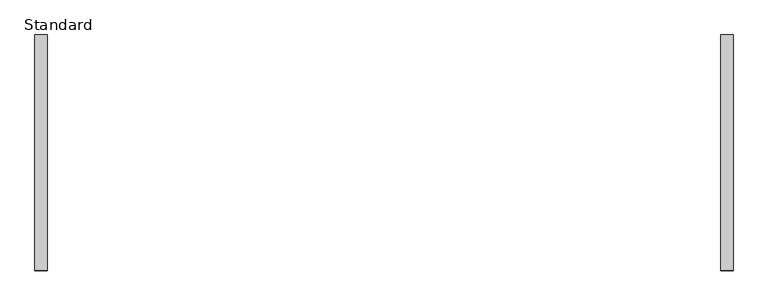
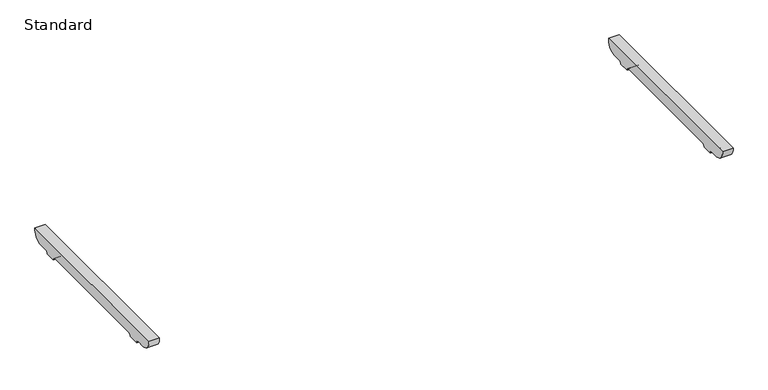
"""IFC4 building model written with IfcOpenShell, lengths in millimetres: furniture geometry, BDG_BossDesign_Tbls_AgentTables4Legs_Nested : Standard."""

from ifc_helpers import new_model, si_unit, point, frame, frame_2d, origin, place, context, project, spatial, polyline, circle_curve, trimmed, segment, composite_curve, outline, extrude, source, transform, mapped, element, save


def standard_5de00fbe(model_context):
    return source(origin(), model_context, "Body", "SweptSolid", [
        extrude(outline(composite_curve([segment(polyline([(380.5450184, 672.0), (342.7000122, 672.0)]), True, "CONTINUOUS"), segment(trimmed(circle_curve(frame_2d((342.7000122, 660.0)), 12.0), [point((342.7000122, 672.0))], [point((330.7000122, 660.0))], True, "CARTESIAN"), True, "CONTINUOUS"), segment(polyline([(330.7000122, 660.0), (285.7000122, 660.0)]), True, "CONTINUOUS"), segment(trimmed(circle_curve(frame_2d((273.7000122, 660.0)), 12.0), [point((285.7000122, 660.0))], [point((273.7000122, 672.0))], True, "CARTESIAN"), True, "CONTINUOUS"), segment(polyline([(273.7000122, 672.0), (-273.7000122, 672.0)]), True, "CONTINUOUS"), segment(trimmed(circle_curve(frame_2d((-273.7000122, 660.0)), 12.0), [point((-273.7000122, 672.0))], [point((-285.7000122, 660.0))], True, "CARTESIAN"), True, "CONTINUOUS"), segment(polyline([(-285.7000122, 660.0), (-330.7000122, 660.0)]), True, "CONTINUOUS"), segment(trimmed(circle_curve(frame_2d((-342.7000122, 660.0)), 12.0), [point((-330.7000122, 660.0))], [point((-342.7000122, 672.0))], True, "CARTESIAN"), True, "CONTINUOUS"), segment(polyline([(-342.7000122, 672.0), (-380.5450184, 672.0)]), True, "CONTINUOUS"), segment(trimmed(circle_curve(frame_2d((-378.2220439, 716.5514119)), 44.6119324), [point((-380.5450184, 672.0))], [point((-422.5, 722.0))], False, "CARTESIAN"), True, "CONTINUOUS"), segment(polyline([(-422.5, 722.0), (422.5, 722.0)]), True, "CONTINUOUS"), segment(trimmed(circle_curve(frame_2d((378.2220439, 716.5514119)), 44.6119324), [point((422.5, 722.0))], [point((380.5450184, 672.0))], False, "CARTESIAN"), True, "CONTINUOUS")], self_intersect=False)), frame((1205.0, 0.0, 0.0), z_axis=(1.0, 0.0, 0.0), x_axis=(0.0, 1.0, 0.0)), (0.0, 0.0, 1.0), 45.0),
        extrude(outline(composite_curve([segment(polyline([(380.5450184, 672.0), (342.7000122, 672.0)]), True, "CONTINUOUS"), segment(trimmed(circle_curve(frame_2d((342.7000122, 660.0)), 12.0), [point((342.7000122, 672.0))], [point((330.7000122, 660.0))], True, "CARTESIAN"), True, "CONTINUOUS"), segment(polyline([(330.7000122, 660.0), (285.7000122, 660.0)]), True, "CONTINUOUS"), segment(trimmed(circle_curve(frame_2d((273.7000122, 660.0)), 12.0), [point((285.7000122, 660.0))], [point((273.7000122, 672.0))], True, "CARTESIAN"), True, "CONTINUOUS"), segment(polyline([(273.7000122, 672.0), (-273.7000122, 672.0)]), True, "CONTINUOUS"), segment(trimmed(circle_curve(frame_2d((-273.7000122, 660.0)), 12.0), [point((-273.7000122, 672.0))], [point((-285.7000122, 660.0))], True, "CARTESIAN"), True, "CONTINUOUS"), segment(polyline([(-285.7000122, 660.0), (-330.7000122, 660.0)]), True, "CONTINUOUS"), segment(trimmed(circle_curve(frame_2d((-342.7000122, 660.0)), 12.0), [point((-330.7000122, 660.0))], [point((-342.7000122, 672.0))], True, "CARTESIAN"), True, "CONTINUOUS"), segment(polyline([(-342.7000122, 672.0), (-380.5450184, 672.0)]), True, "CONTINUOUS"), segment(trimmed(circle_curve(frame_2d((-378.2220439, 716.5514119)), 44.6119324), [point((-380.5450184, 672.0))], [point((-422.5, 722.0))], False, "CARTESIAN"), True, "CONTINUOUS"), segment(polyline([(-422.5, 722.0), (422.5, 722.0)]), True, "CONTINUOUS"), segment(trimmed(circle_curve(frame_2d((378.2220439, 716.5514119)), 44.6119324), [point((422.5, 722.0))], [point((380.5450184, 672.0))], False, "CARTESIAN"), True, "CONTINUOUS")], self_intersect=False)), frame((-1250.0, 0.0, 0.0), z_axis=(1.0, 0.0, 0.0), x_axis=(0.0, 1.0, 0.0)), (0.0, 0.0, 1.0), 45.0),
    ])


if __name__ == "__main__":
    model = new_model("IFC4")
    model_context = context("Model", 3, world=origin())
    ifc_project = project(units=[si_unit("LENGTHUNIT", "METRE", prefix="MILLI")], contexts=[model_context])
    site = spatial("IfcSite", under=ifc_project)
    building = spatial("IfcBuilding", under=site)
    placement = place(None, origin())
    standard_shape = standard_5de00fbe(model_context)
    element("IfcFurniture", 1, ObjectType="BDG_BossDesign_Tbls_AgentTables4Legs_Nested : Standard", at=placement, inside=building, context=model_context, shape_type="MappedRepresentation", body=[
        mapped(standard_shape, transform((0.0, 0.0, 0.0), x_axis=(1.0, 0.0, 0.0), y_axis=(0.0, 1.0, 0.0), z_axis=(0.0, 0.0, 1.0))),
    ])
    save(model, "model.ifc")
